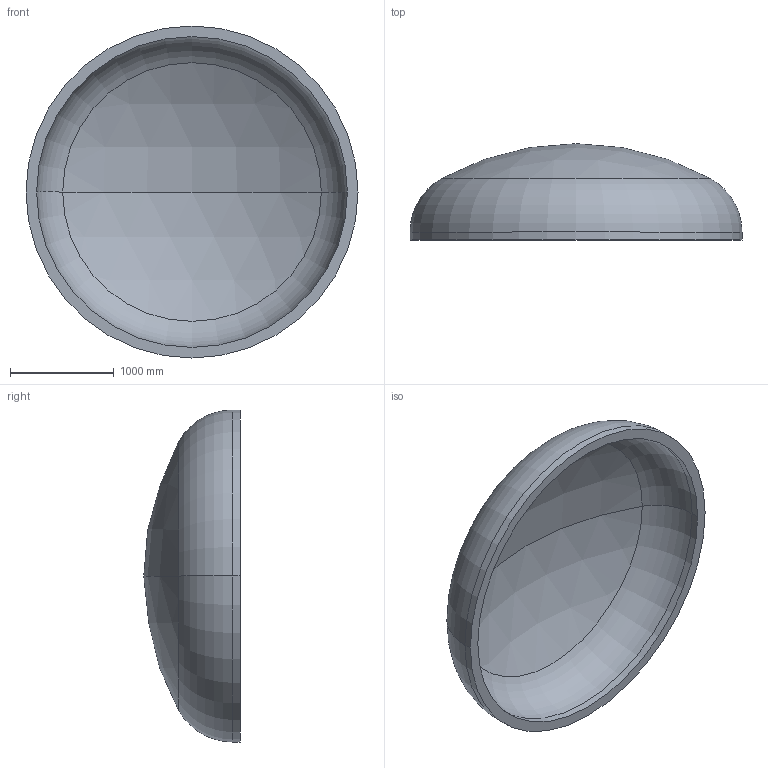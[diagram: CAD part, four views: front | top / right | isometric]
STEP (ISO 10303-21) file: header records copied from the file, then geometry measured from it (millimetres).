
FILE_DESCRIPTION (( 'STEP AP203' ), '1' );
FILE_NAME ('DIN 28013 Korbbogenform_-_Boden DIN 28013 - 3200 x 75 - I - s=102.step', '2016-07-01T18:59:00', ( '' ), ( '' ), 'SwSTEP 2.0', 'SolidWorks 2013', '' );
FILE_SCHEMA (( 'CONFIG_CONTROL_DESIGN' ));
Length unit declared in the file: millimetre
Products named in the file (1): DIN 28013 Korbbogenform_-_Boden DIN 28013 - 3200 x 75 - I - s=102
Bounding box: 3200 x 929.01 x 3200 mm (x, y, z)
Volume: 1163087578.3 mm3; surface area: 23820152 mm2
Topology: 1 solids, 1 shells, 13 faces, 24 edges, 14 vertices
Faces by surface type: torus 4, cylinder 4, sphere 4, plane 1
Entity records: 407 total; most frequent: DIRECTION 72, CARTESIAN_POINT 52, ORIENTED_EDGE 48, AXIS2_PLACEMENT_3D 34, EDGE_CURVE 24, CIRCLE 20, EDGE_LOOP 14, VERTEX_POINT 14
